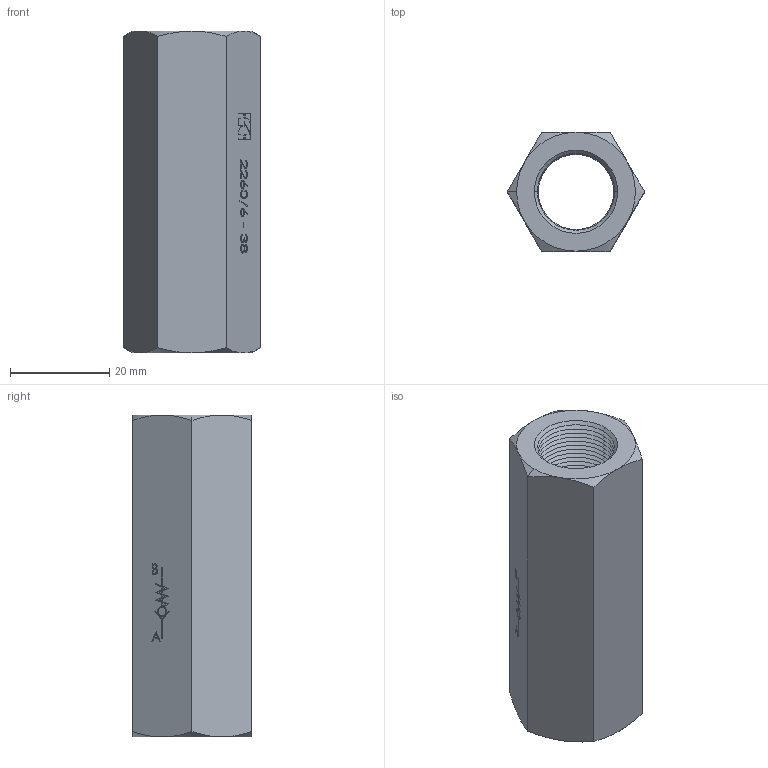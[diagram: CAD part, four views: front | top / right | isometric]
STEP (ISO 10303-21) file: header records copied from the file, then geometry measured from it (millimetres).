
FILE_DESCRIPTION (( 'STEP AP214' ), '1' );
FILE_NAME ('2260-6-38.STEP', '2015-04-08T19:20:31', ( '' ), ( '' ), 'SwSTEP 2.0', 'SolidWorks 2014', '' );
FILE_SCHEMA (( 'AUTOMOTIVE_DESIGN' ));
Length unit declared in the file: millimetre
Products named in the file (1): 2260-6-38
Bounding box: 27.71 x 24 x 65 mm (x, y, z)
Surface area: 7656.7 mm2 (no closed solid volume)
Topology: 0 solids, 6 shells, 321 faces, 862 edges, 548 vertices
Faces by surface type: plane 143, cone 96, bspline 71, cylinder 11
Entity records: 17809 total; most frequent: CARTESIAN_POINT 6779, ORIENTED_EDGE 1598, DIRECTION 1318, EDGE_CURVE 862, VERTEX_POINT 548, VECTOR 544, LINE 544, AXIS2_PLACEMENT_3D 387
